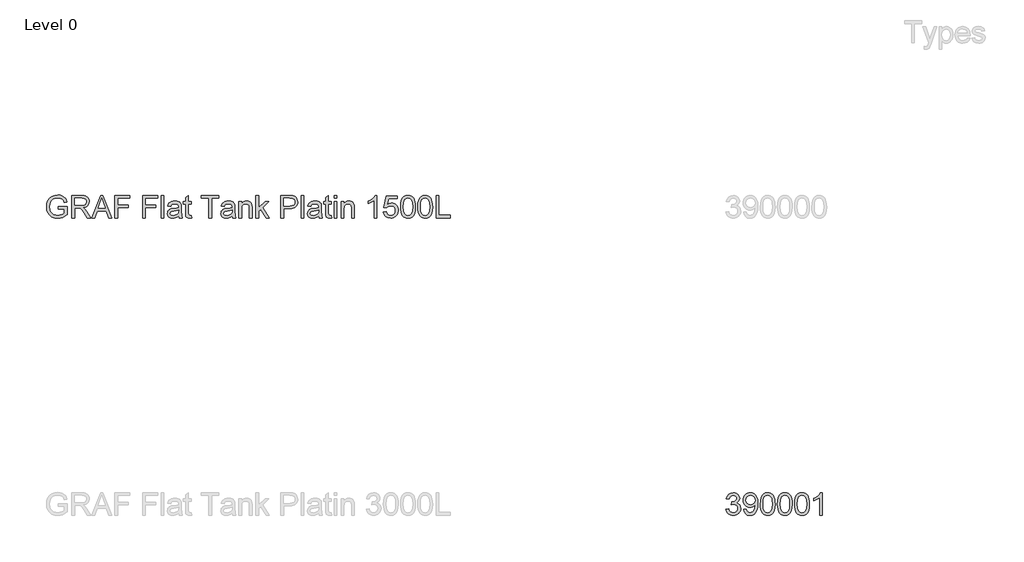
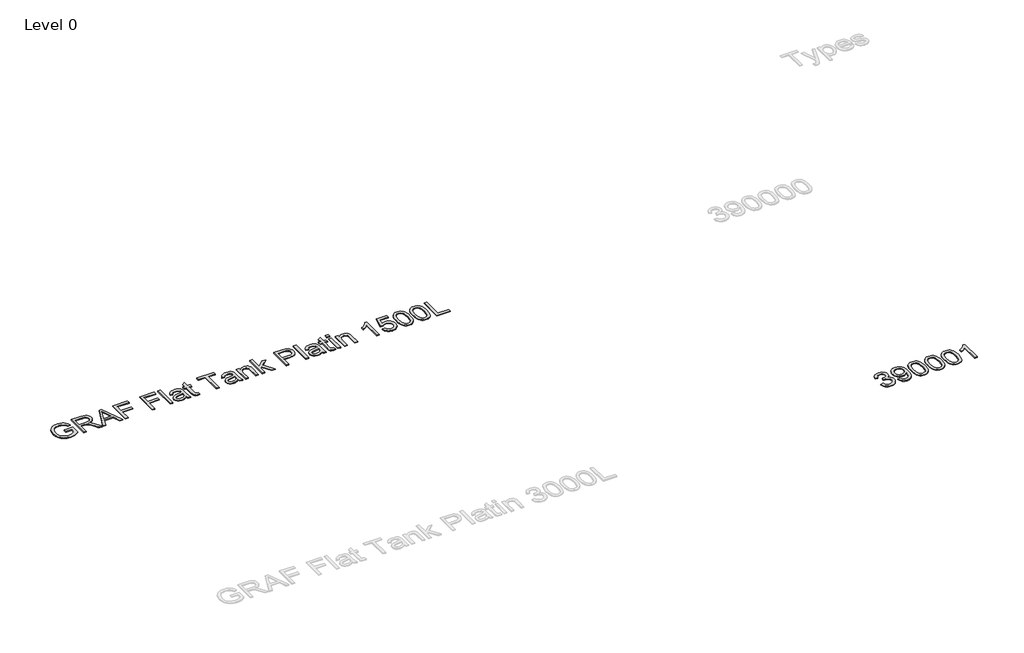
# One storey, part 12 of 14: 2 proxies.
"""IFC4 building model written with IfcOpenShell, lengths in millimetres."""

import ifcopenshell
import ifcopenshell.guid

model = None  # the IFC model being written
_history = None  # IfcOwnerHistory: only IFC2X3 demands one
_inside = {}  # id of a spatial element -> (the spatial element, [elements in it])
_under = {}  # id of a project, library or spatial element -> (it, [spatial elements below it])
_declared = {}  # id of a project -> (the project, [libraries it declares])
_typed = {}  # id of a type object -> (the type object, [elements of that type])
_made_of = {}  # id of a material, layer set ... -> (it, [elements and type objects made of it])


def new_model(schema):
    """Start an empty IFC model of exactly this schema.

    Asked for "IFC4X3", IfcOpenShell would pick the latest addendum, in which some entities
    have other attributes; the version numbers below select the first issue.
    IFC2X3 requires an IfcOwnerHistory on every rooted entity: one is made here for all.
    """
    global model, _history
    if schema == "IFC4X3":
        model = ifcopenshell.file(schema_version=(4, 3, 0, 0))
    else:
        model = ifcopenshell.file(schema=schema)
    _inside.clear()
    _under.clear()
    _declared.clear()
    _typed.clear()
    _made_of.clear()
    _history = None
    if model.schema == "IFC2X3":
        org = make("IfcOrganization", Name="unknown")
        user = make(
            "IfcPersonAndOrganization",
            ThePerson=make("IfcPerson", FamilyName="unknown"),
            TheOrganization=org,
        )
        app = make(
            "IfcApplication",
            ApplicationDeveloper=org,
            Version="unknown",
            ApplicationFullName="unknown",
            ApplicationIdentifier="unknown",
        )
        _history = make(
            "IfcOwnerHistory",
            OwningUser=user,
            OwningApplication=app,
            ChangeAction="ADDED",
            CreationDate=0,
        )
    return model


def make(cls, **values):
    """One entity of the class cls with the attributes given. An attribute that is None is left unset."""
    return model.create_entity(
        cls, **{name: value for name, value in values.items() if value is not None}
    )


def rooted(cls, **values):
    """An entity with a GlobalId (a new one), such as an element, a storey or a relation."""
    return make(cls, GlobalId=ifcopenshell.guid.new(), OwnerHistory=_history, **values)


def si_unit(unit_type, name, prefix=None):
    """IfcSIUnit, for example si_unit("LENGTHUNIT", "METRE", prefix="MILLI")."""
    return make("IfcSIUnit", UnitType=unit_type, Prefix=prefix, Name=name)


def assignment(units):
    """IfcUnitAssignment: the units of a project."""
    return None if units is None else make("IfcUnitAssignment", Units=units)


def point(xyz):
    """IfcCartesianPoint."""
    return None if xyz is None else make("IfcCartesianPoint", Coordinates=xyz)


def direction(xyz):
    """IfcDirection."""
    return None if xyz is None else make("IfcDirection", DirectionRatios=xyz)


def frame(location, z_axis=None, x_axis=None):
    """IfcAxis2Placement3D, a coordinate frame: its origin and axes. An axis left out is left unset."""
    return make(
        "IfcAxis2Placement3D",
        Location=point(location),
        Axis=direction(z_axis),
        RefDirection=direction(x_axis),
    )


def origin():
    """The frame at (0, 0, 0) with its axes left unset."""
    return frame((0.0, 0.0, 0.0))


def origin_with_axes():
    """The frame at (0, 0, 0) with the z axis (0, 0, 1) and the x axis (1, 0, 0) written out."""
    return frame((0.0, 0.0, 0.0), z_axis=(0.0, 0.0, 1.0), x_axis=(1.0, 0.0, 0.0))


def place(relative_to, where):
    """IfcLocalPlacement: puts the frame where relative to a parent placement (None: the world)."""
    return make(
        "IfcLocalPlacement", PlacementRelTo=relative_to, RelativePlacement=where
    )


def context(
    kind, dimensions, precision=None, world=None, true_north=None, identifier=None
):
    """IfcGeometricRepresentationContext, for example the 3D "Model" context."""
    return make(
        "IfcGeometricRepresentationContext",
        ContextIdentifier=identifier,
        ContextType=kind,
        CoordinateSpaceDimension=dimensions,
        Precision=precision,
        WorldCoordinateSystem=world,
        TrueNorth=true_north,
    )


def project(units=None, contexts=None):
    """IfcProject with its units and contexts."""
    return rooted(
        "IfcProject",
        Name="project",
        RepresentationContexts=contexts,
        UnitsInContext=assignment(units),
    )


def spatial(cls, under=None, at=None, **own):
    """A site, building, storey or space (cls), placed at a placement, below another one or the project."""
    s = rooted(cls, ObjectPlacement=at, **own)
    if under is not None:
        _under.setdefault(under.id(), (under, []))[1].append(s)
    return s


def polyline(points):
    """IfcPolyline through the points."""
    return make("IfcPolyline", Points=[point(p) for p in points])


def outline(outer, holes=None, kind="AREA"):
    """IfcArbitraryClosedProfileDef: a profile drawn as a closed curve; with holes, ...WithVoids."""
    if holes is None:
        return make("IfcArbitraryClosedProfileDef", ProfileType=kind, OuterCurve=outer)
    return make(
        "IfcArbitraryProfileDefWithVoids",
        ProfileType=kind,
        OuterCurve=outer,
        InnerCurves=holes,
    )


def extrude(swept, where, along, depth):
    """IfcExtrudedAreaSolid: the profile swept, set in the frame where, extruded along a direction by depth."""
    return make(
        "IfcExtrudedAreaSolid",
        SweptArea=swept,
        Position=where,
        ExtrudedDirection=direction(along),
        Depth=depth,
    )


def shape(context_of_items, identifier, shape_type, items):
    """IfcShapeRepresentation: the items that make up one representation, for example the "Body"."""
    return make(
        "IfcShapeRepresentation",
        ContextOfItems=context_of_items,
        RepresentationIdentifier=identifier,
        RepresentationType=shape_type,
        Items=items,
    )


def made_of(thing, what):
    """Note that an element or type object is made of a material, layer set ...; save() writes the relation."""
    if what is not None:
        _made_of.setdefault(what.id(), (what, []))[1].append(thing)
    return thing


def element(
    cls,
    number,
    at=None,
    inside=None,
    cuts=None,
    type_object=None,
    material=None,
    context=None,
    identifier="Body",
    shape_type=None,
    held_by="IfcProductDefinitionShape",
    body=None,
    shapes=None,
    **own,
):
    """One element of the class cls, such as IfcWall. Its Tag is "e" and its number.

    at: its placement. inside: the storey or other place that contains it. cuts: it is an
    opening in that element (IfcRelVoidsElement). A single representation is given by context,
    identifier, shape_type and body (its items); several are given by shapes. held_by: the class
    of the entity that holds the representations. save() writes the other relations.
    """
    e = rooted(cls, Tag="e%d" % number, ObjectPlacement=at, **own)
    if body is not None:
        shapes = [shape(context, identifier, shape_type, body)]
    if shapes is not None:
        e.Representation = make(held_by, Representations=shapes)
    if inside is not None:
        _inside.setdefault(inside.id(), (inside, []))[1].append(e)
    if cuts is not None:
        rooted(
            "IfcRelVoidsElement", RelatingBuildingElement=cuts, RelatedOpeningElement=e
        )
    if type_object is not None:
        _typed.setdefault(type_object.id(), (type_object, []))[1].append(e)
    return made_of(e, material)


def aggregate(whole, parts):
    """IfcRelAggregates: a whole, such as a stair, and the parts it consists of."""
    return rooted("IfcRelAggregates", RelatingObject=whole, RelatedObjects=parts)


def save(model, path):
    """Write the relations noted so far, then the file.

    IfcRelAggregates (storeys below a building ...), IfcRelContainedInSpatialStructure (elements
    in a storey), IfcRelDefinesByType, IfcRelAssociatesMaterial and IfcRelDeclares: one each for
    every whole, place, type object, material and project.
    """
    for whole, parts in _under.values():
        aggregate(whole, parts)
    for where, things in _inside.values():
        rooted(
            "IfcRelContainedInSpatialStructure",
            RelatedElements=things,
            RelatingStructure=where,
        )
    for kind, things in _typed.values():
        rooted("IfcRelDefinesByType", RelatedObjects=things, RelatingType=kind)
    for what, things in _made_of.values():
        rooted("IfcRelAssociatesMaterial", RelatedObjects=things, RelatingMaterial=what)
    for by, libraries in _declared.values():
        rooted("IfcRelDeclares", RelatingContext=by, RelatedDefinitions=libraries)
    model.write(path)


model = new_model("IFC4")

# Units and contexts
model_context = context("Model", 3, world=origin())
ifc_project = project(units=[si_unit("LENGTHUNIT", "METRE", prefix="MILLI")], contexts=[model_context])

# Site, building, storey
site = spatial("IfcSite", under=ifc_project)
building = spatial("IfcBuilding", under=site)
storey = spatial("IfcBuildingStorey", under=building, Name="Level 0", Elevation=0.0)

# Proxies
placement = place(None, origin())
element("IfcBuildingElementProxy", 1, Name="300mm Arial", ObjectType="300mm Arial", at=placement, inside=storey, context=model_context, shape_type="SweptSolid", body=[
    extrude(outline(polyline([(-15240.9940387, 9416.7454403), (-15240.9940387, 9454.4165566), (-15118.5629107, 9454.4165566), (-15118.5629107, 9341.7710897), (-15148.3153671, 9321.0777274), (-15179.0059225, 9306.2336889), (-15210.5610007, 9297.2941564), (-15242.9070251, 9294.3143123), (-15285.1674693, 9299.050793), (-15323.3628175, 9313.260235), (-15355.0926395, 9336.4459978), (-15377.9565055, 9368.1114405), (-15391.7796715, 9406.0952565), (-15396.3873935, 9448.2361391), (-15391.7980656, 9490.6805243), (-15378.0300819, 9530.1634594), (-15355.6536596, 9563.282036), (-15325.2390156, 9586.6333457), (-15288.1932987, 9600.4841028), (-15245.9236575, 9605.1010218), (-15214.8928112, 9602.4246803), (-15186.9889618, 9594.3956557), (-15163.4904994, 9581.5933623), (-15145.6758138, 9564.5972141), (-15132.4964413, 9542.5886738), (-15122.9039183, 9514.7492038), (-15157.6319786, 9504.9635427), (-15165.3850917, 9524.8199734), (-15174.8120678, 9539.8019677), (-15187.2832674, 9551.0959449), (-15204.169051, 9559.8883246), (-15224.3013932, 9565.5445103), (-15246.5122687, 9567.4299055), (-15272.5123287, 9565.3973575), (-15294.7415982, 9559.2997134), (-15313.1173039, 9549.9003284), (-15327.5566722, 9537.9625577), (-15346.9440533, 9508.9366683), (-15355.7732212, 9480.49939), (-15358.7162772, 9449.7812434), (-15355.175413, 9413.7563991), (-15344.5528204, 9384.1143073), (-15327.1703961, 9361.0665003), (-15303.3500369, 9344.8245102), (-15275.4737787, 9335.195199), (-15245.9236575, 9331.9854286), (-15219.831627, 9334.4042527), (-15194.3833899, 9341.6607251), (-15172.2828791, 9351.6579183), (-15156.234027, 9362.298905), (-15156.234027, 9416.7454403), (-15240.9940387, 9416.7454403)])), origin_with_axes(), (0.0, 0.0, 1.0), 10.0),
    extrude(outline(polyline([(-15057.3473467, 9299.0232018), (-15057.3473467, 9600.3921323), (-14927.4850024, 9600.3921323), (-14892.5821982, 9598.3595842), (-14867.1891434, 9592.2619402), (-14848.6294968, 9581.0047511), (-14834.2269167, 9563.4935682), (-14824.9838815, 9541.7793334), (-14821.9028698, 9517.912989), (-14827.0072325, 9488.2249119), (-14842.3203206, 9463.6136065), (-14853.9200997, 9453.5842236), (-14868.3019865, 9445.5689946), (-14905.4120827, 9435.5809984), (-14884.0013506, 9419.467767), (-14853.467145, 9380.6930048), (-14803.2144645, 9299.0232018), (-14846.9924219, 9299.0232018), (-14886.2086426, 9361.4895646), (-14914.5355562, 9402.8395009), (-14934.4379722, 9422.3740348), (-14952.3538253, 9429.5477337), (-14974.2060158, 9430.8721089), (-15019.6762304, 9430.8721089), (-15019.6762304, 9299.0232018), (-15057.3473467, 9299.0232018)]), holes=[polyline([(-15019.6762304, 9468.5432252), (-14935.3576771, 9468.5432252), (-14911.1418448, 9469.8767974), (-14892.3522719, 9473.8775141), (-14878.2072092, 9480.8120897), (-14867.9249074, 9490.9472387), (-14861.6617165, 9503.2069062), (-14859.5739861, 9516.5150374), (-14863.5563087, 9534.890743), (-14875.5032765, 9549.6979933), (-14896.058683, 9559.4652603), (-14925.8663217, 9562.721016), (-15019.6762304, 9562.721016), (-15019.6762304, 9468.5432252)])]), origin_with_axes(), (0.0, 0.0, 1.0), 10.0),
    extrude(outline(polyline([(-14791.0743586, 9299.0232018), (-14670.7769462, 9600.3921323), (-14638.6976362, 9600.3921323), (-14518.4002238, 9299.0232018), (-14558.2050557, 9299.0232018), (-14592.7123868, 9393.2009926), (-14716.835772, 9393.2009926), (-14751.2695268, 9299.0232018), (-14791.0743586, 9299.0232018)]), holes=[polyline([(-14703.003409, 9430.8721089), (-14606.4711735, 9430.8721089), (-14633.6208647, 9504.9635427), (-14654.7372912, 9562.721016), (-14673.499273, 9511.4382658), (-14703.003409, 9430.8721089)])]), origin_with_axes(), (0.0, 0.0, 1.0), 10.0),
    extrude(outline(polyline([(-14478.1539335, 9299.0232018), (-14478.1539335, 9600.3921323), (-14275.6716834, 9600.3921323), (-14275.6716834, 9562.721016), (-14440.4828172, 9562.721016), (-14440.4828172, 9473.2521147), (-14299.2161311, 9473.2521147), (-14299.2161311, 9435.5809984), (-14440.4828172, 9435.5809984), (-14440.4828172, 9299.0232018), (-14478.1539335, 9299.0232018)])), origin_with_axes(), (0.0, 0.0, 1.0), 10.0),
    extrude(outline(polyline([(-14106.15166, 9299.0232018), (-14106.15166, 9600.3921323), (-13903.6694099, 9600.3921323), (-13903.6694099, 9562.721016), (-14068.4805437, 9562.721016), (-14068.4805437, 9473.2521147), (-13927.2138576, 9473.2521147), (-13927.2138576, 9435.5809984), (-14068.4805437, 9435.5809984), (-14068.4805437, 9299.0232018), (-14106.15166, 9299.0232018)])), origin_with_axes(), (0.0, 0.0, 1.0), 10.0),
    extrude(outline(polyline([(-13856.5805145, 9299.0232018), (-13856.5805145, 9600.3921323), (-13818.9093982, 9600.3921323), (-13818.9093982, 9299.0232018), (-13856.5805145, 9299.0232018)])), origin_with_axes(), (0.0, 0.0, 1.0), 10.0),
    extrude(outline(polyline([(-13621.1360376, 9327.2765391), (-13639.1346642, 9311.8438894), (-13657.6667197, 9301.7455286), (-13677.1552684, 9296.1721164), (-13698.0233746, 9294.3143123), (-13729.5048763, 9298.7840785), (-13752.7274272, 9312.1933772), (-13767.0472339, 9332.5556457), (-13771.8205028, 9357.8843211), (-13770.017881, 9373.5009117), (-13764.6100157, 9387.6827627), (-13756.2682915, 9399.8228685), (-13745.6640929, 9409.314224), (-13719.2869539, 9421.675059), (-13686.6926091, 9427.3404417), (-13648.1753642, 9433.3001301), (-13621.3567668, 9440.289888), (-13621.1360376, 9448.6775975), (-13623.7296056, 9465.4898046), (-13631.5103098, 9476.4894763), (-13648.9111282, 9484.6564566), (-13673.1545517, 9487.3787834), (-13695.5953534, 9485.5669645), (-13711.2671264, 9480.131508), (-13721.9540984, 9470.0791325), (-13729.440497, 9454.4165566), (-13767.1116133, 9459.1254461), (-13760.5725108, 9479.7268379), (-13750.8144409, 9495.9136456), (-13736.9268956, 9508.2928748), (-13717.9993669, 9517.4715306), (-13694.8503924, 9523.1553074), (-13668.2985094, 9525.0498997), (-13642.8318782, 9523.3760366), (-13622.6443538, 9518.3544473), (-13607.4232362, 9510.8036694), (-13596.8558259, 9501.5422402), (-13589.8476739, 9490.0919131), (-13585.3043312, 9475.9744415), (-13583.4649213, 9443.0122147), (-13583.4649213, 9396.1440485), (-13581.5519349, 9330.6978416), (-13574.0471422, 9299.0232018), (-13611.7182585, 9299.0232018), (-13621.1360376, 9327.2765391)]), holes=[polyline([(-13621.1360376, 9402.6187717), (-13681.9101432, 9391.067277), (-13714.320547, 9384.9604359), (-13728.9990386, 9375.027622), (-13734.1493865, 9360.5330714), (-13731.3442863, 9349.3310647), (-13722.9289856, 9340.1524089), (-13709.0874256, 9334.0271737), (-13690.0035471, 9331.9854286), (-13669.7700373, 9334.2387058), (-13651.8909724, 9340.9985375), (-13637.3964218, 9350.9589425), (-13627.3164551, 9362.8139398), (-13622.8466889, 9375.027622), (-13621.3567668, 9391.9501938), (-13621.1360376, 9402.6187717)])]), origin_with_axes(), (0.0, 0.0, 1.0), 10.0),
    extrude(outline(polyline([(-13451.6160142, 9330.4403242), (-13446.9071247, 9297.9195558), (-13475.0868855, 9294.3143123), (-13493.1682856, 9295.8778108), (-13506.6511607, 9300.5683062), (-13516.1793043, 9307.7971874), (-13522.3965101, 9316.9758432), (-13525.8178126, 9332.7395867), (-13526.9582468, 9359.723731), (-13526.9582468, 9482.6698938), (-13555.211584, 9482.6698938), (-13555.211584, 9520.3410101), (-13526.9582468, 9520.3410101), (-13526.9582468, 9574.1253578), (-13489.2871305, 9596.2718539), (-13489.2871305, 9520.3410101), (-13451.6160142, 9520.3410101), (-13451.6160142, 9482.6698938), (-13489.2871305, 9482.6698938), (-13489.2871305, 9360.827377), (-13487.3005677, 9341.4032077), (-13480.8626328, 9334.5238144), (-13468.0235512, 9331.9854286), (-13451.6160142, 9330.4403242)])), origin_with_axes(), (0.0, 0.0, 1.0), 10.0),
    extrude(outline(polyline([(-13216.1715373, 9299.0232018), (-13216.1715373, 9562.721016), (-13315.0582176, 9562.721016), (-13315.0582176, 9600.3921323), (-13079.6137407, 9600.3921323), (-13079.6137407, 9562.721016), (-13178.500421, 9562.721016), (-13178.500421, 9299.0232018), (-13216.1715373, 9299.0232018)])), origin_with_axes(), (0.0, 0.0, 1.0), 10.0),
    extrude(outline(polyline([(-12900.6759382, 9327.2765391), (-12918.6745648, 9311.8438894), (-12937.2066203, 9301.7455286), (-12956.695169, 9296.1721164), (-12977.5632752, 9294.3143123), (-13009.0447769, 9298.7840785), (-13032.2673279, 9312.1933772), (-13046.5871346, 9332.5556457), (-13051.3604034, 9357.8843211), (-13049.5577817, 9373.5009117), (-13044.1499163, 9387.6827627), (-13035.8081921, 9399.8228685), (-13025.2039936, 9409.314224), (-12998.8268545, 9421.675059), (-12966.2325098, 9427.3404417), (-12927.7152649, 9433.3001301), (-12900.8966674, 9440.289888), (-12900.6759382, 9448.6775975), (-12903.2695063, 9465.4898046), (-12911.0502105, 9476.4894763), (-12928.4510289, 9484.6564566), (-12952.6944523, 9487.3787834), (-12975.135254, 9485.5669645), (-12990.807027, 9480.131508), (-13001.493999, 9470.0791325), (-13008.9803976, 9454.4165566), (-13046.6515139, 9459.1254461), (-13040.1124114, 9479.7268379), (-13030.3543415, 9495.9136456), (-13016.4667962, 9508.2928748), (-12997.5392675, 9517.4715306), (-12974.390293, 9523.1553074), (-12947.83841, 9525.0498997), (-12922.3717789, 9523.3760366), (-12902.1842544, 9518.3544473), (-12886.9631368, 9510.8036694), (-12876.3957265, 9501.5422402), (-12869.3875745, 9490.0919131), (-12864.8442319, 9475.9744415), (-12863.0048219, 9443.0122147), (-12863.0048219, 9396.1440485), (-12861.0918355, 9330.6978416), (-12853.5870428, 9299.0232018), (-12891.2581591, 9299.0232018), (-12900.6759382, 9327.2765391)]), holes=[polyline([(-12900.6759382, 9402.6187717), (-12961.4500438, 9391.067277), (-12993.8604476, 9384.9604359), (-13008.5389392, 9375.027622), (-13013.6892871, 9360.5330714), (-13010.8841869, 9349.3310647), (-13002.4688863, 9340.1524089), (-12988.6273262, 9334.0271737), (-12969.5434477, 9331.9854286), (-12949.309938, 9334.2387058), (-12931.430873, 9340.9985375), (-12916.9363224, 9350.9589425), (-12906.8563557, 9362.8139398), (-12902.3865895, 9375.027622), (-12900.8966674, 9391.9501938), (-12900.6759382, 9402.6187717)])]), origin_with_axes(), (0.0, 0.0, 1.0), 10.0),
    extrude(outline(polyline([(-12811.207037, 9299.0232018), (-12811.207037, 9520.3410101), (-12773.5359207, 9520.3410101), (-12773.5359207, 9489.4389225), (-12760.4485187, 9505.018725), (-12744.7307605, 9516.1471554), (-12726.382646, 9522.8242136), (-12705.4041752, 9525.0498997), (-12686.8353315, 9523.2564749), (-12669.8299862, 9517.8762008), (-12655.6481353, 9509.5804618), (-12645.5497746, 9499.0406426), (-12634.2557973, 9471.3391284), (-12632.2692345, 9434.9188108), (-12632.2692345, 9299.0232018), (-12669.9403508, 9299.0232018), (-12669.9403508, 9429.8420393), (-12674.2813584, 9463.1721481), (-12680.287032, 9473.0957649), (-12689.6220376, 9480.7936956), (-12701.5873995, 9485.7325114), (-12715.4841418, 9487.3787834), (-12737.5478645, 9483.6815693), (-12756.3558315, 9472.5899271), (-12763.8721205, 9463.5354315), (-12769.2408984, 9451.1608009), (-12773.5359207, 9416.4511347), (-12773.5359207, 9299.0232018), (-12811.207037, 9299.0232018)])), origin_with_axes(), (0.0, 0.0, 1.0), 10.0),
    extrude(outline(polyline([(-12580.4714496, 9299.0232018), (-12580.4714496, 9600.3921323), (-12542.8003333, 9600.3921323), (-12542.8003333, 9438.450478), (-12458.3346272, 9520.3410101), (-12406.2425367, 9520.3410101), (-12491.7383124, 9437.4204084), (-12401.5336472, 9299.0232018), (-12445.5323338, 9299.0232018), (-12518.7408508, 9411.2272104), (-12542.8003333, 9387.9034919), (-12542.8003333, 9299.0232018), (-12580.4714496, 9299.0232018)])), origin_with_axes(), (0.0, 0.0, 1.0), 10.0),
    extrude(outline(polyline([(-12246.1402924, 9299.0232018), (-12246.1402924, 9600.3921323), (-12134.4513187, 9600.3921323), (-12089.4225625, 9597.5226527), (-12069.3454026, 9592.1607726), (-12052.8183039, 9583.4327723), (-12039.5101728, 9570.9431786), (-12029.0899152, 9554.2965183), (-12022.3576747, 9534.6608168), (-12020.1135946, 9513.2040994), (-12021.6288085, 9494.7042336), (-12026.1744504, 9477.6850928), (-12033.7505203, 9462.146677), (-12044.357018, 9448.0889863), (-12058.9182473, 9436.4363241), (-12078.3585115, 9428.1129939), (-12102.6778106, 9423.1189958), (-12131.8761447, 9421.4543298), (-12208.4691761, 9421.4543298), (-12208.4691761, 9299.0232018), (-12246.1402924, 9299.0232018)]), holes=[polyline([(-12208.4691761, 9459.1254461), (-12129.6688527, 9459.1254461), (-12096.2651676, 9462.5835369), (-12074.1922479, 9472.9578091), (-12061.8865951, 9489.6044694), (-12057.7847109, 9511.8797242), (-12060.203535, 9528.802296), (-12067.4600073, 9543.0761174), (-12078.652817, 9553.8182717), (-12092.8806532, 9560.145842), (-12130.5517695, 9562.721016), (-12208.4691761, 9562.721016), (-12208.4691761, 9459.1254461)])]), origin_with_axes(), (0.0, 0.0, 1.0), 10.0),
    extrude(outline(polyline([(-11973.0246992, 9299.0232018), (-11973.0246992, 9600.3921323), (-11935.3535829, 9600.3921323), (-11935.3535829, 9299.0232018), (-11973.0246992, 9299.0232018)])), origin_with_axes(), (0.0, 0.0, 1.0), 10.0),
    extrude(outline(polyline([(-11737.5802223, 9327.2765391), (-11755.5788489, 9311.8438894), (-11774.1109044, 9301.7455286), (-11793.5994531, 9296.1721164), (-11814.4675593, 9294.3143123), (-11845.949061, 9298.7840785), (-11869.1716119, 9312.1933772), (-11883.4914186, 9332.5556457), (-11888.2646875, 9357.8843211), (-11886.4620657, 9373.5009117), (-11881.0542004, 9387.6827627), (-11872.7124761, 9399.8228685), (-11862.1082776, 9409.314224), (-11835.7311386, 9421.675059), (-11803.1367938, 9427.3404417), (-11764.6195489, 9433.3001301), (-11737.8009515, 9440.289888), (-11737.5802223, 9448.6775975), (-11740.1737903, 9465.4898046), (-11747.9544945, 9476.4894763), (-11765.3553129, 9484.6564566), (-11789.5987364, 9487.3787834), (-11812.0395381, 9485.5669645), (-11827.7113111, 9480.131508), (-11838.398283, 9470.0791325), (-11845.8846816, 9454.4165566), (-11883.555798, 9459.1254461), (-11877.0166955, 9479.7268379), (-11867.2586256, 9495.9136456), (-11853.3710803, 9508.2928748), (-11834.4435516, 9517.4715306), (-11811.2945771, 9523.1553074), (-11784.742694, 9525.0498997), (-11759.2760629, 9523.3760366), (-11739.0885384, 9518.3544473), (-11723.8674209, 9510.8036694), (-11713.3000106, 9501.5422402), (-11706.2918586, 9490.0919131), (-11701.7485159, 9475.9744415), (-11699.909106, 9443.0122147), (-11699.909106, 9396.1440485), (-11697.9961196, 9330.6978416), (-11690.4913269, 9299.0232018), (-11728.1624432, 9299.0232018), (-11737.5802223, 9327.2765391)]), holes=[polyline([(-11737.5802223, 9402.6187717), (-11798.3543279, 9391.067277), (-11830.7647316, 9384.9604359), (-11845.4432233, 9375.027622), (-11850.5935712, 9360.5330714), (-11847.788471, 9349.3310647), (-11839.3731703, 9340.1524089), (-11825.5316103, 9334.0271737), (-11806.4477318, 9331.9854286), (-11786.214222, 9334.2387058), (-11768.3351571, 9340.9985375), (-11753.8406065, 9350.9589425), (-11743.7606398, 9362.8139398), (-11739.2908735, 9375.027622), (-11737.8009515, 9391.9501938), (-11737.5802223, 9402.6187717)])]), origin_with_axes(), (0.0, 0.0, 1.0), 10.0),
    extrude(outline(polyline([(-11568.0601989, 9330.4403242), (-11563.3513094, 9297.9195558), (-11591.5310702, 9294.3143123), (-11609.6124702, 9295.8778108), (-11623.0953454, 9300.5683062), (-11632.623489, 9307.7971874), (-11638.8406948, 9316.9758432), (-11642.2619973, 9332.7395867), (-11643.4024315, 9359.723731), (-11643.4024315, 9482.6698938), (-11671.6557687, 9482.6698938), (-11671.6557687, 9520.3410101), (-11643.4024315, 9520.3410101), (-11643.4024315, 9574.1253578), (-11605.7313152, 9596.2718539), (-11605.7313152, 9520.3410101), (-11568.0601989, 9520.3410101), (-11568.0601989, 9482.6698938), (-11605.7313152, 9482.6698938), (-11605.7313152, 9360.827377), (-11603.7447524, 9341.4032077), (-11597.3068175, 9334.5238144), (-11584.4677359, 9331.9854286), (-11568.0601989, 9330.4403242)])), origin_with_axes(), (0.0, 0.0, 1.0), 10.0),
    extrude(outline(polyline([(-11530.3890826, 9562.721016), (-11530.3890826, 9600.3921323), (-11492.7179663, 9600.3921323), (-11492.7179663, 9562.721016), (-11530.3890826, 9562.721016)])), origin_with_axes(), (0.0, 0.0, 1.0), 10.0),
    extrude(outline(polyline([(-11530.3890826, 9299.0232018), (-11530.3890826, 9520.3410101), (-11492.7179663, 9520.3410101), (-11492.7179663, 9299.0232018), (-11530.3890826, 9299.0232018)])), origin_with_axes(), (0.0, 0.0, 1.0), 10.0),
    extrude(outline(polyline([(-11436.2112918, 9299.0232018), (-11436.2112918, 9520.3410101), (-11398.5401755, 9520.3410101), (-11398.5401755, 9489.4389225), (-11385.4527735, 9505.018725), (-11369.7350153, 9516.1471554), (-11351.3869008, 9522.8242136), (-11330.40843, 9525.0498997), (-11311.8395863, 9523.2564749), (-11294.8342411, 9517.8762008), (-11280.6523902, 9509.5804618), (-11270.5540294, 9499.0406426), (-11259.2600521, 9471.3391284), (-11257.2734894, 9434.9188108), (-11257.2734894, 9299.0232018), (-11294.9446057, 9299.0232018), (-11294.9446057, 9429.8420393), (-11299.2856132, 9463.1721481), (-11305.2912868, 9473.0957649), (-11314.6262924, 9480.7936956), (-11326.5916543, 9485.7325114), (-11340.4883967, 9487.3787834), (-11362.5521193, 9483.6815693), (-11381.3600863, 9472.5899271), (-11388.8763754, 9463.5354315), (-11394.2451532, 9451.1608009), (-11398.5401755, 9416.4511347), (-11398.5401755, 9299.0232018), (-11436.2112918, 9299.0232018)])), origin_with_axes(), (0.0, 0.0, 1.0), 10.0),
    extrude(outline(polyline([(-10955.9045589, 9299.0232018), (-10993.5756752, 9299.0232018), (-10993.5756752, 9533.8790675), (-11029.2602288, 9508.4584217), (-11068.9179078, 9489.4389225), (-11068.9179078, 9525.0498997), (-11039.3309984, 9541.1447369), (-11013.6988204, 9560.2929948), (-10993.4929018, 9580.6552632), (-10980.1847706, 9600.3921323), (-10955.9045589, 9600.3921323), (-10955.9045589, 9299.0232018)])), origin_with_axes(), (0.0, 0.0, 1.0), 10.0),
    extrude(outline(polyline([(-10866.4356577, 9379.074324), (-10828.7645414, 9383.7832135), (-10821.8483599, 9361.1676679), (-10809.7818304, 9344.971663), (-10792.6201354, 9335.2319872), (-10770.4184569, 9331.9854286), (-10743.4159185, 9336.5011801), (-10723.1824088, 9350.0484346), (-10710.5456622, 9371.0636935), (-10706.3334134, 9397.9834585), (-10710.2789478, 9423.330528), (-10722.115551, 9442.7179091), (-10741.9351935, 9455.0235619), (-10769.8298458, 9459.1254461), (-10788.1043839, 9457.4883712), (-10802.9024371, 9452.5771466), (-10824.0556518, 9435.5809984), (-10861.7267682, 9440.289888), (-10828.7645414, 9595.6832427), (-10682.7889657, 9595.6832427), (-10682.7889657, 9558.0121264), (-10798.3039122, 9558.0121264), (-10814.4171436, 9475.0179483), (-10787.5065756, 9491.3519089), (-10759.3084207, 9496.7965624), (-10740.9626054, 9495.1089038), (-10724.1113108, 9490.0459278), (-10708.7545368, 9481.6076346), (-10694.8922833, 9469.794024), (-10683.4166644, 9455.3270645), (-10675.2197936, 9438.9287246), (-10670.3016712, 9420.5990042), (-10668.6622971, 9400.3379033), (-10674.5668031, 9362.666787), (-10681.9474356, 9345.8729739), (-10692.2803212, 9330.4403242), (-10707.9337001, 9314.635194), (-10726.1990411, 9303.3458153), (-10747.0763444, 9296.572188), (-10770.5656097, 9294.3143123), (-10807.5653414, 9300.1176508), (-10823.2440122, 9307.3718238), (-10837.0418863, 9317.5276662), (-10848.5221038, 9330.07934), (-10857.2478049, 9344.5210076), (-10866.4356577, 9379.074324)])), origin_with_axes(), (0.0, 0.0, 1.0), 10.0),
    extrude(outline(polyline([(-10635.7000703, 9447.2796459), (-10632.9317583, 9495.5181725), (-10624.6268223, 9533.9894321), (-10610.8680356, 9563.282036), (-10591.7381719, 9583.9845953), (-10567.0992753, 9596.290248), (-10536.81339, 9600.3921323), (-10513.6000361, 9597.9641111), (-10492.8147034, 9590.6800476), (-10475.4322791, 9578.8250503), (-10462.4276506, 9562.6842278), (-10452.6052013, 9542.3955357), (-10444.7693148, 9518.0969299), (-10439.637361, 9487.2408276), (-10437.9267097, 9447.2796459), (-10440.6674306, 9399.3170308), (-10448.8895932, 9360.9377416), (-10462.5656063, 9331.6175466), (-10481.6678789, 9310.8322139), (-10506.3619579, 9298.4437877), (-10536.81339, 9294.3143123), (-10557.5619345, 9296.107737), (-10575.9560343, 9301.4880112), (-10591.9956893, 9310.4551348), (-10605.6808995, 9323.0091079), (-10618.8142867, 9345.7028285), (-10628.1952776, 9373.9791583), (-10633.8238721, 9407.8380975), (-10635.7000703, 9447.2796459)]), holes=[polyline([(-10598.028954, 9447.3532223), (-10593.6143701, 9388.0966299), (-10588.0961401, 9367.8286312), (-10580.3706182, 9353.8008309), (-10560.6521433, 9337.4392792), (-10536.81339, 9331.9854286), (-10512.9746367, 9337.4576733), (-10493.2561618, 9353.8744073), (-10485.5306399, 9367.9252003), (-10480.01241, 9388.1886004), (-10475.597826, 9447.3532223), (-10479.8652572, 9505.2762424), (-10485.1995461, 9525.4775625), (-10492.6675506, 9539.8387559), (-10512.3492373, 9557.0004509), (-10537.2548484, 9562.721016), (-10560.8360843, 9557.6810326), (-10579.782007, 9542.5610826), (-10587.7650463, 9526.9260978), (-10593.4672173, 9505.8464595), (-10598.028954, 9447.3532223)])]), origin_with_axes(), (0.0, 0.0, 1.0), 10.0),
    extrude(outline(polyline([(-10404.9644829, 9447.2796459), (-10402.1961709, 9495.5181725), (-10393.8912349, 9533.9894321), (-10380.1324483, 9563.282036), (-10361.0025845, 9583.9845953), (-10336.3636879, 9596.290248), (-10306.0778026, 9600.3921323), (-10282.8644487, 9597.9641111), (-10262.079116, 9590.6800476), (-10244.6966917, 9578.8250503), (-10231.6920632, 9562.6842278), (-10221.8696139, 9542.3955357), (-10214.0337274, 9518.0969299), (-10208.9017736, 9487.2408276), (-10207.1911223, 9447.2796459), (-10209.9318432, 9399.3170308), (-10218.1540058, 9360.9377416), (-10231.830019, 9331.6175466), (-10250.9322916, 9310.8322139), (-10275.6263705, 9298.4437877), (-10306.0778026, 9294.3143123), (-10326.8263472, 9296.107737), (-10345.2204469, 9301.4880112), (-10361.2601019, 9310.4551348), (-10374.9453121, 9323.0091079), (-10388.0786994, 9345.7028285), (-10397.4596902, 9373.9791583), (-10403.0882848, 9407.8380975), (-10404.9644829, 9447.2796459)]), holes=[polyline([(-10367.2933666, 9447.3532223), (-10362.8787827, 9388.0966299), (-10357.3605528, 9367.8286312), (-10349.6350309, 9353.8008309), (-10329.9165559, 9337.4392792), (-10306.0778026, 9331.9854286), (-10282.2390493, 9337.4576733), (-10262.5205744, 9353.8744073), (-10254.7950525, 9367.9252003), (-10249.2768226, 9388.1886004), (-10244.8622386, 9447.3532223), (-10249.1296698, 9505.2762424), (-10254.4639587, 9525.4775625), (-10261.9319632, 9539.8387559), (-10281.61365, 9557.0004509), (-10306.519261, 9562.721016), (-10330.1004969, 9557.6810326), (-10349.0464197, 9542.5610826), (-10357.029459, 9526.9260978), (-10362.7316299, 9505.8464595), (-10367.2933666, 9447.3532223)])]), origin_with_axes(), (0.0, 0.0, 1.0), 10.0),
    extrude(outline(polyline([(-10160.102227, 9299.0232018), (-10160.102227, 9600.3921323), (-10122.4311106, 9600.3921323), (-10122.4311106, 9336.6943181), (-9971.7466454, 9336.6943181), (-9971.7466454, 9299.0232018), (-10160.102227, 9299.0232018)])), origin_with_axes(), (0.0, 0.0, 1.0), 10.0),
])
element("IfcBuildingElementProxy", 2, Name="300mm Arial", ObjectType="300mm Arial", at=placement, inside=storey, context=model_context, shape_type="SweptSolid", body=[
    extrude(outline(polyline([(-6261.2846424, 5379.074324), (-6223.6135261, 5383.7832135), (-6215.1798313, 5360.1100071), (-6202.8281934, 5344.1255344), (-6185.9516068, 5335.020455), (-6163.9430665, 5331.9854286), (-6138.1177504, 5336.1608892), (-6118.1785463, 5348.6872712), (-6105.4314351, 5367.3756765), (-6101.1823981, 5390.0372074), (-6105.3946469, 5411.5491071), (-6118.0313935, 5428.9959107), (-6137.1612572, 5440.5566024), (-6160.8528577, 5444.4101663), (-6187.266785, 5440.289888), (-6183.0729302, 5477.9610043), (-6177.0396655, 5477.5195459), (-6154.4701051, 5480.2234785), (-6134.2917777, 5488.3352765), (-6120.0547444, 5502.057275), (-6115.3090667, 5521.5918089), (-6118.7487634, 5537.8613901), (-6129.0678533, 5551.0591567), (-6144.8132027, 5559.8055512), (-6164.5316777, 5562.721016), (-6184.2869408, 5559.77796), (-6200.4369604, 5550.9487921), (-6212.2275783, 5536.2335123), (-6218.9046365, 5515.6321206), (-6256.5757528, 5520.3410101), (-6245.4841107, 5554.1677596), (-6225.7472417, 5579.4228585), (-6198.7447032, 5595.1498138), (-6165.8560528, 5600.3921323), (-6142.1736494, 5597.8077613), (-6120.4226264, 5590.0546482), (-6102.083709, 5577.8225719), (-6088.637622, 5561.801311), (-6080.3878683, 5543.3428319), (-6077.6379504, 5523.7991009), (-6080.2499126, 5505.5889421), (-6088.0857991, 5489.0710405), (-6101.0352453, 5474.9995542), (-6118.9878867, 5464.1286413), (-6095.4066508, 5454.6004976), (-6077.932256, 5438.3769016), (-6067.1165253, 5416.3407701), (-6063.5112818, 5389.3750198), (-6065.3139036, 5370.2635502), (-6070.7217689, 5352.6603967), (-6079.7348778, 5336.5655594), (-6092.3532302, 5321.9790383), (-6107.7260991, 5309.8757207), (-6125.0027573, 5301.2304938), (-6144.1832048, 5296.0433577), (-6165.2674416, 5294.3143123), (-6184.323729, 5295.7904388), (-6201.6877592, 5300.2188183), (-6217.3595322, 5307.5994508), (-6231.339048, 5317.9323364), (-6243.0606881, 5330.6104696), (-6251.9588338, 5345.0268453), (-6258.0334853, 5361.1814634), (-6261.2846424, 5379.074324)])), origin_with_axes(), (0.0, 0.0, 1.0), 10.0),
    extrude(outline(polyline([(-6025.8401655, 5374.3654344), (-5988.1690492, 5379.074324), (-5981.7311143, 5357.691183), (-5971.2464774, 5343.132253), (-5956.972656, 5334.7721347), (-5939.1671674, 5331.9854286), (-5923.1918918, 5333.7788533), (-5908.66975, 5339.1591275), (-5896.6032206, 5347.5376399), (-5887.9947819, 5358.3257794), (-5875.670735, 5391.067277), (-5870.2260815, 5434.771658), (-5870.4468107, 5442.1292979), (-5883.4974245, 5426.2000076), (-5900.5763461, 5413.5816551), (-5920.4511709, 5405.3594925), (-5941.8894942, 5402.6187717), (-5959.784654, 5404.2926347), (-5976.2404755, 5409.314224), (-5991.2569587, 5417.6835394), (-6004.8341035, 5429.4005809), (-6016.0843948, 5443.8537448), (-6024.1203171, 5460.4314272), (-6028.9418705, 5479.1336281), (-6030.549055, 5499.9603476), (-6028.8636956, 5521.4814443), (-6023.8076174, 5540.7952491), (-6015.3808205, 5557.9017618), (-6003.5833048, 5572.8009826), (-5989.2474033, 5584.8721106), (-5973.205449, 5593.4943449), (-5955.457442, 5598.6676854), (-5936.0033823, 5600.3921323), (-5907.9063949, 5596.4557949), (-5882.3293992, 5584.6467829), (-5860.9370611, 5565.5537073), (-5845.3940468, 5539.7651795), (-5835.9302825, 5504.1174141), (-5832.7756944, 5455.4466262), (-5835.9210855, 5403.8419793), (-5845.3572586, 5363.954374), (-5861.0014405, 5333.9811884), (-5882.7708575, 5312.1198009), (-5909.7274107, 5298.7656844), (-5940.933001, 5294.3143123), (-5973.1410697, 5299.5658278), (-5998.837627, 5315.3203742), (-6016.8086625, 5340.5846702), (-6025.8401655, 5374.3654344)]), holes=[polyline([(-5870.4468107, 5500.8432644), (-5874.5119068, 5526.3742748), (-5886.7071949, 5546.0191734), (-5905.6347235, 5558.5455553), (-5929.8965411, 5562.721016), (-5955.0596696, 5558.2236586), (-5975.2196029, 5544.7315864), (-5988.4633548, 5524.0842094), (-5992.8779387, 5498.1209376), (-5988.7024781, 5474.8432044), (-5976.1760961, 5456.3663312), (-5956.5128035, 5444.3089988), (-5930.9266107, 5440.289888), (-5906.8579312, 5444.3089988), (-5887.4797471, 5456.3663312), (-5874.7050448, 5475.5237861), (-5870.4468107, 5500.8432644)])]), origin_with_axes(), (0.0, 0.0, 1.0), 10.0),
    extrude(outline(polyline([(-5799.8134676, 5447.2796459), (-5797.0451556, 5495.5181725), (-5788.7402196, 5533.9894321), (-5774.981433, 5563.282036), (-5755.8515692, 5583.9845953), (-5731.2126726, 5596.290248), (-5700.9267873, 5600.3921323), (-5677.7134334, 5597.9641111), (-5656.9281007, 5590.6800476), (-5639.5456764, 5578.8250503), (-5626.5410479, 5562.6842278), (-5616.7185986, 5542.3955357), (-5608.8827121, 5518.0969299), (-5603.7507583, 5487.2408276), (-5602.040107, 5447.2796459), (-5604.7808279, 5399.3170308), (-5613.0029905, 5360.9377416), (-5626.6790037, 5331.6175466), (-5645.7812763, 5310.8322139), (-5670.4753552, 5298.4437877), (-5700.9267873, 5294.3143123), (-5721.6753319, 5296.107737), (-5740.0694316, 5301.4880112), (-5756.1090866, 5310.4551348), (-5769.7942968, 5323.0091079), (-5782.9276841, 5345.7028285), (-5792.3086749, 5373.9791583), (-5797.9372695, 5407.8380975), (-5799.8134676, 5447.2796459)]), holes=[polyline([(-5762.1423513, 5447.3532223), (-5757.7277674, 5388.0966299), (-5752.2095375, 5367.8286312), (-5744.4840156, 5353.8008309), (-5724.7655406, 5337.4392792), (-5700.9267873, 5331.9854286), (-5677.088034, 5337.4576733), (-5657.3695591, 5353.8744073), (-5649.6440372, 5367.9252003), (-5644.1258073, 5388.1886004), (-5639.7112233, 5447.3532223), (-5643.9786545, 5505.2762424), (-5649.3129434, 5525.4775625), (-5656.7809479, 5539.8387559), (-5676.4626347, 5557.0004509), (-5701.3682457, 5562.721016), (-5724.9494816, 5557.6810326), (-5743.8954044, 5542.5610826), (-5751.8784437, 5526.9260978), (-5757.5806146, 5505.8464595), (-5762.1423513, 5447.3532223)])]), origin_with_axes(), (0.0, 0.0, 1.0), 10.0),
    extrude(outline(polyline([(-5569.0778803, 5447.2796459), (-5566.3095682, 5495.5181725), (-5558.0046322, 5533.9894321), (-5544.2458456, 5563.282036), (-5525.1159818, 5583.9845953), (-5500.4770852, 5596.290248), (-5470.1912, 5600.3921323), (-5446.9778461, 5597.9641111), (-5426.1925133, 5590.6800476), (-5408.8100891, 5578.8250503), (-5395.8054605, 5562.6842278), (-5385.9830113, 5542.3955357), (-5378.1471248, 5518.0969299), (-5373.0151709, 5487.2408276), (-5371.3045197, 5447.2796459), (-5374.0452405, 5399.3170308), (-5382.2674031, 5360.9377416), (-5395.9434163, 5331.6175466), (-5415.0456889, 5310.8322139), (-5439.7397678, 5298.4437877), (-5470.1912, 5294.3143123), (-5490.9397445, 5296.107737), (-5509.3338442, 5301.4880112), (-5525.3734992, 5310.4551348), (-5539.0587095, 5323.0091079), (-5552.1920967, 5345.7028285), (-5561.5730876, 5373.9791583), (-5567.2016821, 5407.8380975), (-5569.0778803, 5447.2796459)]), holes=[polyline([(-5531.406764, 5447.3532223), (-5526.99218, 5388.0966299), (-5521.4739501, 5367.8286312), (-5513.7484282, 5353.8008309), (-5494.0299532, 5337.4392792), (-5470.1912, 5331.9854286), (-5446.3524467, 5337.4576733), (-5426.6339717, 5353.8744073), (-5418.9084498, 5367.9252003), (-5413.3902199, 5388.1886004), (-5408.975636, 5447.3532223), (-5413.2430671, 5505.2762424), (-5418.577356, 5525.4775625), (-5426.0453605, 5539.8387559), (-5445.7270473, 5557.0004509), (-5470.6326584, 5562.721016), (-5494.2138942, 5557.6810326), (-5513.159817, 5542.5610826), (-5521.1428563, 5526.9260978), (-5526.8450272, 5505.8464595), (-5531.406764, 5447.3532223)])]), origin_with_axes(), (0.0, 0.0, 1.0), 10.0),
    extrude(outline(polyline([(-5338.3422929, 5447.2796459), (-5335.5739809, 5495.5181725), (-5327.2690448, 5533.9894321), (-5313.5102582, 5563.282036), (-5294.3803945, 5583.9845953), (-5269.7414978, 5596.290248), (-5239.4556126, 5600.3921323), (-5216.2422587, 5597.9641111), (-5195.456926, 5590.6800476), (-5178.0745017, 5578.8250503), (-5165.0698732, 5562.6842278), (-5155.2474239, 5542.3955357), (-5147.4115374, 5518.0969299), (-5142.2795836, 5487.2408276), (-5140.5689323, 5447.2796459), (-5143.3096531, 5399.3170308), (-5151.5318157, 5360.9377416), (-5165.2078289, 5331.6175466), (-5184.3101015, 5310.8322139), (-5209.0041804, 5298.4437877), (-5239.4556126, 5294.3143123), (-5260.2041571, 5296.107737), (-5278.5982569, 5301.4880112), (-5294.6379119, 5310.4551348), (-5308.3231221, 5323.0091079), (-5321.4565093, 5345.7028285), (-5330.8375002, 5373.9791583), (-5336.4660947, 5407.8380975), (-5338.3422929, 5447.2796459)]), holes=[polyline([(-5300.6711766, 5447.3532223), (-5296.2565926, 5388.0966299), (-5290.7383627, 5367.8286312), (-5283.0128408, 5353.8008309), (-5263.2943659, 5337.4392792), (-5239.4556126, 5331.9854286), (-5215.6168593, 5337.4576733), (-5195.8983844, 5353.8744073), (-5188.1728625, 5367.9252003), (-5182.6546325, 5388.1886004), (-5178.2400486, 5447.3532223), (-5182.5074797, 5505.2762424), (-5187.8417687, 5525.4775625), (-5195.3097732, 5539.8387559), (-5214.9914599, 5557.0004509), (-5239.897071, 5562.721016), (-5263.4783069, 5557.6810326), (-5282.4242296, 5542.5610826), (-5290.4072689, 5526.9260978), (-5296.1094398, 5505.8464595), (-5300.6711766, 5447.3532223)])]), origin_with_axes(), (0.0, 0.0, 1.0), 10.0),
    extrude(outline(polyline([(-4966.3400194, 5299.0232018), (-5004.0111357, 5299.0232018), (-5004.0111357, 5533.8790675), (-5039.6956892, 5508.4584217), (-5079.3533683, 5489.4389225), (-5079.3533683, 5525.0498997), (-5049.7664588, 5541.1447369), (-5024.1342808, 5560.2929948), (-5003.9283622, 5580.6552632), (-4990.620231, 5600.3921323), (-4966.3400194, 5600.3921323), (-4966.3400194, 5299.0232018)])), origin_with_axes(), (0.0, 0.0, 1.0), 10.0),
])

save(model, "model.ifc")
